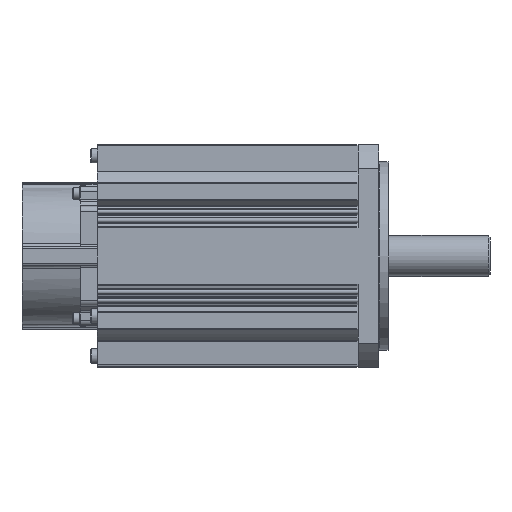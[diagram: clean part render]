
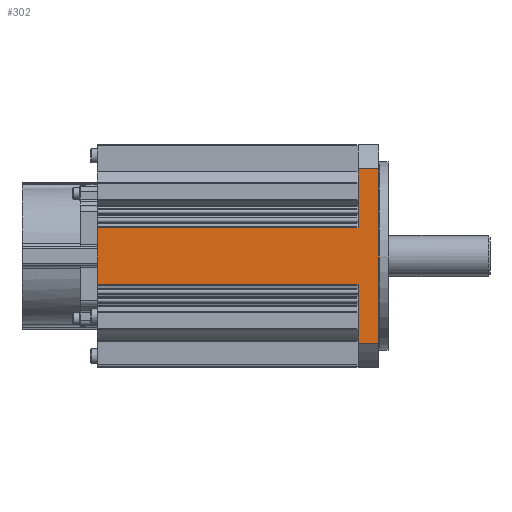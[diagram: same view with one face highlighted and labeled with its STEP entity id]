
A CAD part, front view. The second image highlights one B-rep face of the part: STEP entity #302.
In plain terms, the highlighted planar face has unit normal (0, -1, 0).
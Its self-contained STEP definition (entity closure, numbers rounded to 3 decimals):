
#302 = ADVANCED_FACE( '', ( #1114 ), #1115, .T. );
#1114 = FACE_OUTER_BOUND( '', #2333, .T. );
#1115 = PLANE( '', #2334 );
#2333 = EDGE_LOOP( '', ( #5109, #5110, #5111, #5112, #5113, #5114, #5115, #5116 ) );
#2334 = AXIS2_PLACEMENT_3D( '', #5117, #5118, #5119 );
#5109 = ORIENTED_EDGE( '', *, *, #7922, .F. );
#5110 = ORIENTED_EDGE( '', *, *, #8173, .T. );
#5111 = ORIENTED_EDGE( '', *, *, #8135, .F. );
#5112 = ORIENTED_EDGE( '', *, *, #8174, .F. );
#5113 = ORIENTED_EDGE( '', *, *, #7586, .F. );
#5114 = ORIENTED_EDGE( '', *, *, #7594, .T. );
#5115 = ORIENTED_EDGE( '', *, *, #8124, .T. );
#5116 = ORIENTED_EDGE( '', *, *, #7592, .F. );
#5117 = CARTESIAN_POINT( '', ( -164., -65., 50.806 ) );
#5118 = DIRECTION( '', ( 0., -1., 0. ) );
#5119 = DIRECTION( '', ( 0., 0., -1. ) );
#7586 = EDGE_CURVE( '', #9096, #9098, #9099, .T. );
#7592 = EDGE_CURVE( '', #9108, #9103, #9110, .T. );
#7594 = EDGE_CURVE( '', #9096, #9112, #9114, .T. );
#7922 = EDGE_CURVE( '', #9668, #9108, #9669, .T. );
#8124 = EDGE_CURVE( '', #9112, #9103, #10000, .T. );
#8135 = EDGE_CURVE( '', #10019, #10021, #10022, .T. );
#8173 = EDGE_CURVE( '', #9668, #10021, #10094, .T. );
#8174 = EDGE_CURVE( '', #9098, #10019, #10095, .T. );
#9096 = VERTEX_POINT( '', #11742 );
#9098 = VERTEX_POINT( '', #11744 );
#9099 = LINE( '', #11745, #11746 );
#9103 = VERTEX_POINT( '', #11750 );
#9108 = VERTEX_POINT( '', #11756 );
#9110 = LINE( '', #11758, #11759 );
#9112 = VERTEX_POINT( '', #11761 );
#9114 = LINE( '', #11763, #11764 );
#9668 = VERTEX_POINT( '', #12502 );
#9669 = LINE( '', #12503, #12504 );
#10000 = LINE( '', #12960, #12961 );
#10019 = VERTEX_POINT( '', #12981 );
#10021 = VERTEX_POINT( '', #12983 );
#10022 = LINE( '', #12984, #12985 );
#10094 = LINE( '', #13084, #13085 );
#10095 = LINE( '', #13086, #13087 );
#11742 = CARTESIAN_POINT( '', ( -12., -65., 16.424 ) );
#11744 = CARTESIAN_POINT( '', ( -12., -65., 50.806 ) );
#11745 = CARTESIAN_POINT( '', ( -12., -65., 50.806 ) );
#11746 = VECTOR( '', #14732, 1000. );
#11750 = CARTESIAN_POINT( '', ( -164., -65., -16.424 ) );
#11756 = CARTESIAN_POINT( '', ( -12., -65., -16.424 ) );
#11758 = CARTESIAN_POINT( '', ( -12., -65., -16.424 ) );
#11759 = VECTOR( '', #14746, 1000. );
#11761 = CARTESIAN_POINT( '', ( -164., -65., 16.424 ) );
#11763 = CARTESIAN_POINT( '', ( -12., -65., 16.424 ) );
#11764 = VECTOR( '', #14750, 1000. );
#12502 = CARTESIAN_POINT( '', ( -12., -65., -50.806 ) );
#12503 = CARTESIAN_POINT( '', ( -12., -65., 50.806 ) );
#12504 = VECTOR( '', #15364, 1000. );
#12960 = CARTESIAN_POINT( '', ( -164., -65., 50.806 ) );
#12961 = VECTOR( '', #15718, 1000. );
#12981 = CARTESIAN_POINT( '', ( 0., -65., 50.806 ) );
#12983 = CARTESIAN_POINT( '', ( 0., -65., -50.806 ) );
#12984 = CARTESIAN_POINT( '', ( 0., -65., 50.806 ) );
#12985 = VECTOR( '', #15747, 1000. );
#13084 = CARTESIAN_POINT( '', ( -164., -65., -50.806 ) );
#13085 = VECTOR( '', #15805, 1000. );
#13086 = CARTESIAN_POINT( '', ( -164., -65., 50.806 ) );
#13087 = VECTOR( '', #15806, 1000. );
#14732 = DIRECTION( '', ( 0., 0., 1. ) );
#14746 = DIRECTION( '', ( -1., 0., 0. ) );
#14750 = DIRECTION( '', ( -1., 0., 0. ) );
#15364 = DIRECTION( '', ( 0., 0., 1. ) );
#15718 = DIRECTION( '', ( 0., 0., -1. ) );
#15747 = DIRECTION( '', ( 0., 0., -1. ) );
#15805 = DIRECTION( '', ( 1., 0., 0. ) );
#15806 = DIRECTION( '', ( 1., 0., 0. ) );
